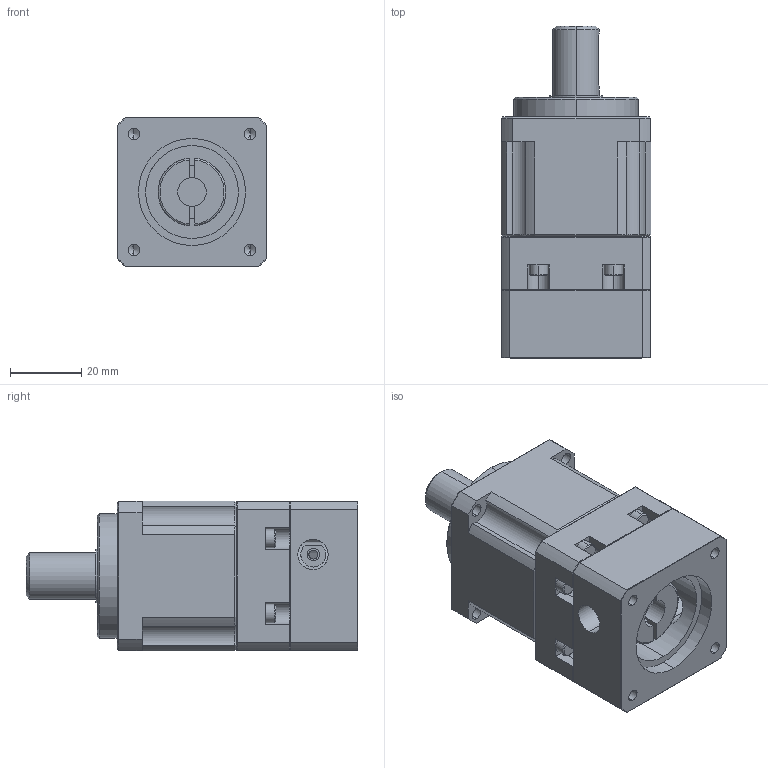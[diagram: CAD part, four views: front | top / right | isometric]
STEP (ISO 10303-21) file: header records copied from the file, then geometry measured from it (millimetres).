
FILE_DESCRIPTION (( 'STEP AP203' ), '1' );
FILE_NAME ('MF40H-L1£r30PCD£r46M4.STEP', '2014-04-17T01:19:37', ( 'KELLY' ), ( '' ), 'SwSTEP 2.0', 'SolidWorks 2012', '' );
FILE_SCHEMA (( 'CONFIG_CONTROL_DESIGN' ));
Length unit declared in the file: millimetre
Products named in the file (1): MF40H-L1｣r30PCD｣r46M4
Bounding box: 42 x 93 x 42 mm (x, y, z)
Volume: 105109.8 mm3; surface area: 26211.1 mm2
Topology: 2 solids, 2 shells, 346 faces, 808 edges, 479 vertices
Faces by surface type: plane 150, cylinder 118, cone 74, torus 4
Entity records: 10213 total; most frequent: CARTESIAN_POINT 2224, DIRECTION 1698, ORIENTED_EDGE 1596, EDGE_CURVE 798, AXIS2_PLACEMENT_3D 631, VERTEX_POINT 479, LINE 436, VECTOR 436
